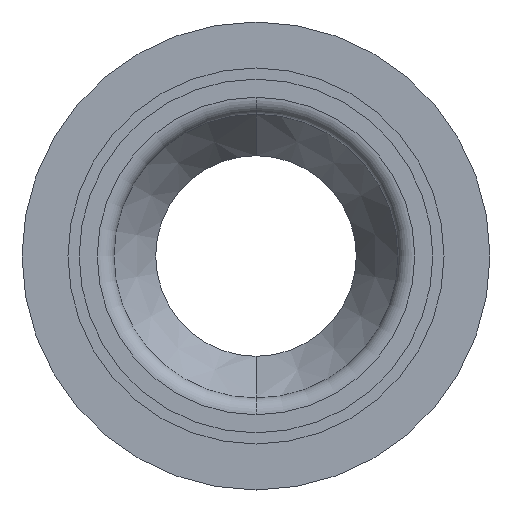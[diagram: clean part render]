
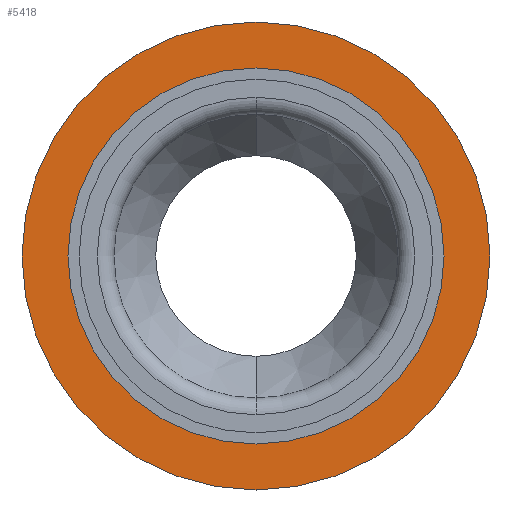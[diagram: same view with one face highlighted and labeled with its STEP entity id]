
A CAD part, front view. The second image highlights one B-rep face of the part: STEP entity #5418.
In plain terms, the highlighted planar face has unit normal (0, -1, 0).
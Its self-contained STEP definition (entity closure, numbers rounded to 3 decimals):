
#235 = ORIENTED_EDGE ( 'NONE', *, *, #1617, .F. ) ;
#262 = DIRECTION ( 'NONE',  ( 0., -1., 0. ) ) ;
#328 = EDGE_CURVE ( 'NONE', #5933, #660, #1969, .T. ) ;
#660 = VERTEX_POINT ( 'NONE', #6225 ) ;
#1191 = CIRCLE ( 'NONE', #5296, 10.5 ) ;
#1335 = CARTESIAN_POINT ( 'NONE',  ( 3853.216, 1620.715, 0. ) ) ;
#1446 = FACE_OUTER_BOUND ( 'NONE', #6248, .T. ) ;
#1454 = PLANE ( 'NONE',  #4642 ) ;
#1617 = EDGE_CURVE ( 'NONE', #2055, #5688, #1191, .T. ) ;
#1788 = EDGE_CURVE ( 'NONE', #5688, #2055, #3988, .T. ) ;
#1969 = CIRCLE ( 'NONE', #4482, 14. ) ;
#2055 = VERTEX_POINT ( 'NONE', #2765 ) ;
#2371 = DIRECTION ( 'NONE',  ( 0., 1., 0. ) ) ;
#2413 = EDGE_LOOP ( 'NONE', ( #5664, #235 ) ) ;
#2436 = CARTESIAN_POINT ( 'NONE',  ( 3853.216, 1620.715, 0. ) ) ;
#2765 = CARTESIAN_POINT ( 'NONE',  ( 3853.216, 1620.715, 10.5 ) ) ;
#3232 = AXIS2_PLACEMENT_3D ( 'NONE', #2436, #4417, #5872 ) ;
#3267 = AXIS2_PLACEMENT_3D ( 'NONE', #1335, #3829, #5821 ) ;
#3312 = ORIENTED_EDGE ( 'NONE', *, *, #4826, .T. ) ;
#3433 = DIRECTION ( 'NONE',  ( 0., 0., 1. ) ) ;
#3778 = ORIENTED_EDGE ( 'NONE', *, *, #328, .T. ) ;
#3825 = CARTESIAN_POINT ( 'NONE',  ( 3853.216, 1620.715, -10.5 ) ) ;
#3829 = DIRECTION ( 'NONE',  ( 0., -1., 0. ) ) ;
#3852 = DIRECTION ( 'NONE',  ( 0., 0., -1. ) ) ;
#3988 = CIRCLE ( 'NONE', #3232, 10.5 ) ;
#4211 = CARTESIAN_POINT ( 'NONE',  ( 3853.216, 1620.715, 0. ) ) ;
#4417 = DIRECTION ( 'NONE',  ( 0., -1., 0. ) ) ;
#4482 = AXIS2_PLACEMENT_3D ( 'NONE', #4211, #262, #5187 ) ;
#4642 = AXIS2_PLACEMENT_3D ( 'NONE', #5871, #2371, #3433 ) ;
#4826 = EDGE_CURVE ( 'NONE', #660, #5933, #6022, .T. ) ;
#4873 = CARTESIAN_POINT ( 'NONE',  ( 3853.216, 1620.715, 0. ) ) ;
#5146 = CARTESIAN_POINT ( 'NONE',  ( 3853.216, 1620.715, -14. ) ) ;
#5187 = DIRECTION ( 'NONE',  ( 0., 0., -1. ) ) ;
#5296 = AXIS2_PLACEMENT_3D ( 'NONE', #4873, #5820, #3852 ) ;
#5418 = ADVANCED_FACE ( 'NONE', ( #5483, #1446 ), #1454, .F. ) ;
#5483 = FACE_BOUND ( 'NONE', #2413, .T. ) ;
#5664 = ORIENTED_EDGE ( 'NONE', *, *, #1788, .F. ) ;
#5688 = VERTEX_POINT ( 'NONE', #3825 ) ;
#5820 = DIRECTION ( 'NONE',  ( 0., -1., 0. ) ) ;
#5821 = DIRECTION ( 'NONE',  ( 0., 0., -1. ) ) ;
#5871 = CARTESIAN_POINT ( 'NONE',  ( 0., 1620.715, 0. ) ) ;
#5872 = DIRECTION ( 'NONE',  ( 0., 0., -1. ) ) ;
#5933 = VERTEX_POINT ( 'NONE', #5146 ) ;
#6022 = CIRCLE ( 'NONE', #3267, 14. ) ;
#6225 = CARTESIAN_POINT ( 'NONE',  ( 3853.216, 1620.715, 14. ) ) ;
#6248 = EDGE_LOOP ( 'NONE', ( #3778, #3312 ) ) ;
